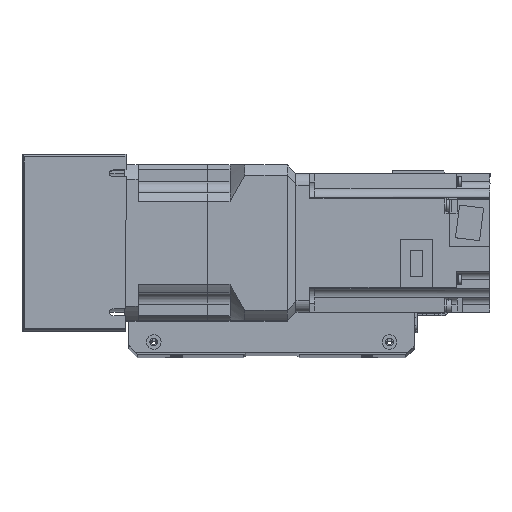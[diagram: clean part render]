
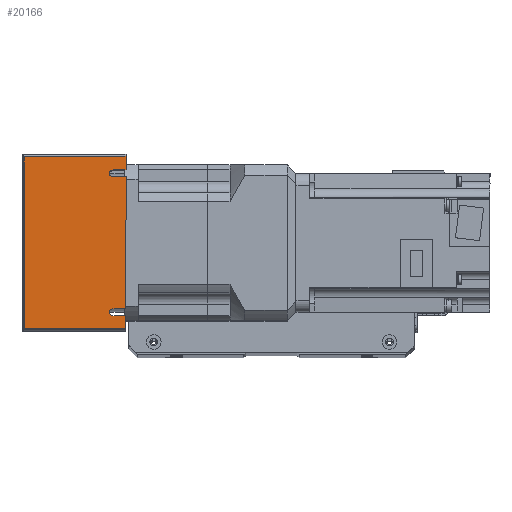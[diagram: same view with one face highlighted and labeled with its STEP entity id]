
A CAD part, top view. The second image highlights one B-rep face of the part: STEP entity #20166.
In plain terms, the highlighted planar face has unit normal (0, 0, 1) as drawn and (-1, 0, 0) by its records, which use the part's own axes.
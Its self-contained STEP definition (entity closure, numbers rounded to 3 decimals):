
#589=PLANE('',#21976);
#1677=LINE('',#32367,#3337);
#1683=LINE('',#32381,#3343);
#1695=LINE('',#32408,#3355);
#1705=LINE('',#32430,#3365);
#1713=LINE('',#32450,#3373);
#1714=LINE('',#32452,#3374);
#1715=LINE('',#32454,#3375);
#1716=LINE('',#32456,#3376);
#1717=LINE('',#32457,#3377);
#1718=LINE('',#32459,#3378);
#3337=VECTOR('',#26200,10.);
#3343=VECTOR('',#26210,10.);
#3355=VECTOR('',#26228,10.);
#3365=VECTOR('',#26242,10.);
#3373=VECTOR('',#26264,10.);
#3374=VECTOR('',#26265,10.);
#3375=VECTOR('',#26266,10.);
#3376=VECTOR('',#26267,10.);
#3377=VECTOR('',#26268,10.);
#3378=VECTOR('',#26271,10.);
#5387=FACE_OUTER_BOUND('',#6843,.T.);
#6843=EDGE_LOOP('',(#16240,#16241,#16242,#16243,#16244,#16245,#16246,#16247,
#16248,#16249,#16250,#16251));
#8287=CIRCLE('',#21971,2.);
#8291=CIRCLE('',#21977,2.);
#9732=VERTEX_POINT('',#32364);
#9733=VERTEX_POINT('',#32366);
#9738=VERTEX_POINT('',#32379);
#9739=VERTEX_POINT('',#32380);
#9750=VERTEX_POINT('',#32406);
#9751=VERTEX_POINT('',#32407);
#9760=VERTEX_POINT('',#32427);
#9761=VERTEX_POINT('',#32429);
#9766=VERTEX_POINT('',#32449);
#9767=VERTEX_POINT('',#32451);
#9768=VERTEX_POINT('',#32453);
#9769=VERTEX_POINT('',#32455);
#12091=EDGE_CURVE('',#9733,#9732,#1677,.T.);
#12097=EDGE_CURVE('',#9738,#9739,#1683,.T.);
#12109=EDGE_CURVE('',#9750,#9751,#1695,.T.);
#12119=EDGE_CURVE('',#9761,#9760,#1705,.T.);
#12121=EDGE_CURVE('',#9739,#9733,#8287,.T.);
#12131=EDGE_CURVE('',#9766,#9732,#1713,.T.);
#12132=EDGE_CURVE('',#9767,#9766,#1714,.T.);
#12133=EDGE_CURVE('',#9768,#9767,#1715,.T.);
#12134=EDGE_CURVE('',#9769,#9768,#1716,.T.);
#12135=EDGE_CURVE('',#9750,#9769,#1717,.T.);
#12136=EDGE_CURVE('',#9751,#9761,#8291,.T.);
#12137=EDGE_CURVE('',#9738,#9760,#1718,.T.);
#16240=ORIENTED_EDGE('',*,*,#12091,.T.);
#16241=ORIENTED_EDGE('',*,*,#12131,.F.);
#16242=ORIENTED_EDGE('',*,*,#12132,.F.);
#16243=ORIENTED_EDGE('',*,*,#12133,.F.);
#16244=ORIENTED_EDGE('',*,*,#12134,.F.);
#16245=ORIENTED_EDGE('',*,*,#12135,.F.);
#16246=ORIENTED_EDGE('',*,*,#12109,.T.);
#16247=ORIENTED_EDGE('',*,*,#12136,.T.);
#16248=ORIENTED_EDGE('',*,*,#12119,.T.);
#16249=ORIENTED_EDGE('',*,*,#12137,.F.);
#16250=ORIENTED_EDGE('',*,*,#12097,.T.);
#16251=ORIENTED_EDGE('',*,*,#12121,.T.);
#20166=ADVANCED_FACE('',(#5387),#589,.T.);
#21971=AXIS2_PLACEMENT_3D('',#32433,#26246,#26247);
#21976=AXIS2_PLACEMENT_3D('',#32448,#26262,#26263);
#21977=AXIS2_PLACEMENT_3D('',#32458,#26269,#26270);
#26200=DIRECTION('',(0.,0.,1.));
#26210=DIRECTION('',(0.,0.,-1.));
#26228=DIRECTION('',(0.,0.,-1.));
#26242=DIRECTION('',(0.,0.,1.));
#26246=DIRECTION('center_axis',(1.,0.,0.));
#26247=DIRECTION('ref_axis',(0.,0.,-1.));
#26262=DIRECTION('center_axis',(-1.,0.,0.));
#26263=DIRECTION('ref_axis',(0.,-1.,0.));
#26264=DIRECTION('',(0.,-1.,0.));
#26265=DIRECTION('',(0.,0.,1.));
#26266=DIRECTION('',(0.,1.,0.));
#26267=DIRECTION('',(0.,0.,-1.));
#26268=DIRECTION('',(0.,-1.,0.));
#26269=DIRECTION('center_axis',(1.,0.,0.));
#26270=DIRECTION('ref_axis',(0.,0.,-1.));
#26271=DIRECTION('',(0.,-1.,0.));
#32364=CARTESIAN_POINT('',(-120.5,42.,30.));
#32366=CARTESIAN_POINT('',(-120.5,42.,22.5));
#32367=CARTESIAN_POINT('',(-120.5,42.,16.304));
#32379=CARTESIAN_POINT('',(-120.5,38.,30.));
#32380=CARTESIAN_POINT('',(-120.5,38.,22.5));
#32381=CARTESIAN_POINT('',(-120.5,38.,11.25));
#32406=CARTESIAN_POINT('',(-120.5,-42.,30.));
#32407=CARTESIAN_POINT('',(-120.5,-42.,22.5));
#32408=CARTESIAN_POINT('',(-120.5,-42.,11.25));
#32427=CARTESIAN_POINT('',(-120.5,-38.,30.));
#32429=CARTESIAN_POINT('',(-120.5,-38.,22.5));
#32430=CARTESIAN_POINT('',(-120.5,-38.,16.169));
#32433=CARTESIAN_POINT('Origin',(-120.5,40.,22.5));
#32448=CARTESIAN_POINT('Origin',(-120.5,51.,0.));
#32449=CARTESIAN_POINT('',(-120.5,50.,30.));
#32450=CARTESIAN_POINT('',(-120.5,-51.,30.));
#32451=CARTESIAN_POINT('',(-120.5,50.,-29.));
#32452=CARTESIAN_POINT('',(-120.5,50.,0.));
#32453=CARTESIAN_POINT('',(-120.5,-50.,-29.));
#32454=CARTESIAN_POINT('',(-120.5,25.5,-29.));
#32455=CARTESIAN_POINT('',(-120.5,-50.,30.));
#32456=CARTESIAN_POINT('',(-120.5,-50.,0.));
#32457=CARTESIAN_POINT('',(-120.5,-51.,30.));
#32458=CARTESIAN_POINT('Origin',(-120.5,-40.,22.5));
#32459=CARTESIAN_POINT('',(-120.5,-51.,30.));
